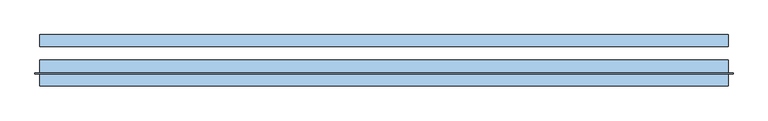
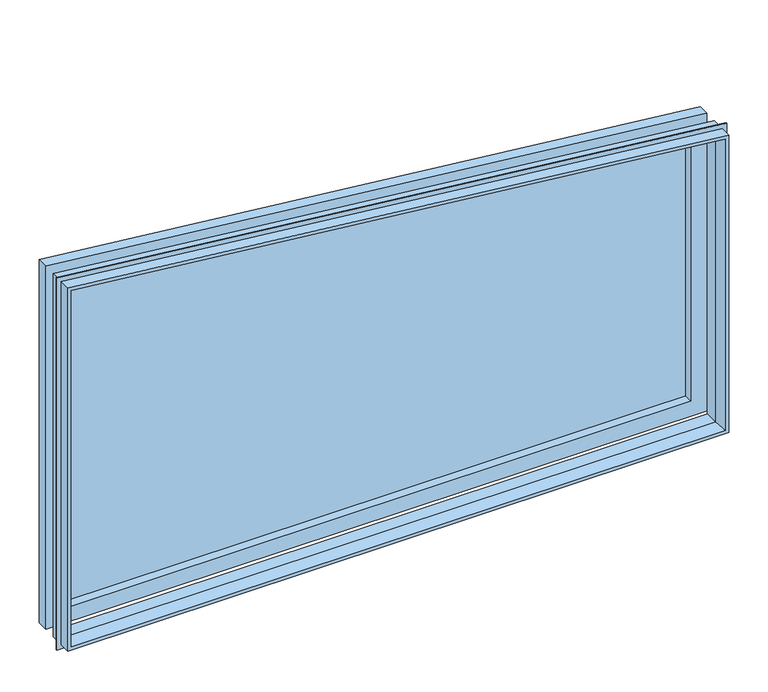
"""IFC4 building model written with IfcOpenShell, lengths in millimetres: window geometry, trapzoid_1824 : Menuiserie 1.2."""

import ifcopenshell
import ifcopenshell.guid

model = None  # the IFC model being written
_history = None  # IfcOwnerHistory: only IFC2X3 demands one
_inside = {}  # id of a spatial element -> (the spatial element, [elements in it])
_under = {}  # id of a project, library or spatial element -> (it, [spatial elements below it])
_declared = {}  # id of a project -> (the project, [libraries it declares])
_typed = {}  # id of a type object -> (the type object, [elements of that type])
_made_of = {}  # id of a material, layer set ... -> (it, [elements and type objects made of it])


def new_model(schema):
    """Start an empty IFC model of exactly this schema.

    Asked for "IFC4X3", IfcOpenShell would pick the latest addendum, in which some entities
    have other attributes; the version numbers below select the first issue.
    IFC2X3 requires an IfcOwnerHistory on every rooted entity: one is made here for all.
    """
    global model, _history
    if schema == "IFC4X3":
        model = ifcopenshell.file(schema_version=(4, 3, 0, 0))
    else:
        model = ifcopenshell.file(schema=schema)
    _inside.clear()
    _under.clear()
    _declared.clear()
    _typed.clear()
    _made_of.clear()
    _history = None
    if model.schema == "IFC2X3":
        org = make("IfcOrganization", Name="unknown")
        user = make(
            "IfcPersonAndOrganization",
            ThePerson=make("IfcPerson", FamilyName="unknown"),
            TheOrganization=org,
        )
        app = make(
            "IfcApplication",
            ApplicationDeveloper=org,
            Version="unknown",
            ApplicationFullName="unknown",
            ApplicationIdentifier="unknown",
        )
        _history = make(
            "IfcOwnerHistory",
            OwningUser=user,
            OwningApplication=app,
            ChangeAction="ADDED",
            CreationDate=0,
        )
    return model


def make(cls, **values):
    """One entity of the class cls with the attributes given. An attribute that is None is left unset."""
    return model.create_entity(
        cls, **{name: value for name, value in values.items() if value is not None}
    )


def rooted(cls, **values):
    """An entity with a GlobalId (a new one), such as an element, a storey or a relation."""
    return make(cls, GlobalId=ifcopenshell.guid.new(), OwnerHistory=_history, **values)


def si_unit(unit_type, name, prefix=None):
    """IfcSIUnit, for example si_unit("LENGTHUNIT", "METRE", prefix="MILLI")."""
    return make("IfcSIUnit", UnitType=unit_type, Prefix=prefix, Name=name)


def assignment(units):
    """IfcUnitAssignment: the units of a project."""
    return None if units is None else make("IfcUnitAssignment", Units=units)


def point(xyz):
    """IfcCartesianPoint."""
    return None if xyz is None else make("IfcCartesianPoint", Coordinates=xyz)


def direction(xyz):
    """IfcDirection."""
    return None if xyz is None else make("IfcDirection", DirectionRatios=xyz)


def frame(location, z_axis=None, x_axis=None):
    """IfcAxis2Placement3D, a coordinate frame: its origin and axes. An axis left out is left unset."""
    return make(
        "IfcAxis2Placement3D",
        Location=point(location),
        Axis=direction(z_axis),
        RefDirection=direction(x_axis),
    )


def origin():
    """The frame at (0, 0, 0) with its axes left unset."""
    return frame((0.0, 0.0, 0.0))


def place(relative_to, where):
    """IfcLocalPlacement: puts the frame where relative to a parent placement (None: the world)."""
    return make(
        "IfcLocalPlacement", PlacementRelTo=relative_to, RelativePlacement=where
    )


def context(
    kind, dimensions, precision=None, world=None, true_north=None, identifier=None
):
    """IfcGeometricRepresentationContext, for example the 3D "Model" context."""
    return make(
        "IfcGeometricRepresentationContext",
        ContextIdentifier=identifier,
        ContextType=kind,
        CoordinateSpaceDimension=dimensions,
        Precision=precision,
        WorldCoordinateSystem=world,
        TrueNorth=true_north,
    )


def project(units=None, contexts=None):
    """IfcProject with its units and contexts."""
    return rooted(
        "IfcProject",
        Name="project",
        RepresentationContexts=contexts,
        UnitsInContext=assignment(units),
    )


def spatial(cls, under=None, at=None, **own):
    """A site, building, storey or space (cls), placed at a placement, below another one or the project."""
    s = rooted(cls, ObjectPlacement=at, **own)
    if under is not None:
        _under.setdefault(under.id(), (under, []))[1].append(s)
    return s


def polyline(points):
    """IfcPolyline through the points."""
    return make("IfcPolyline", Points=[point(p) for p in points])


def outline(outer, holes=None, kind="AREA"):
    """IfcArbitraryClosedProfileDef: a profile drawn as a closed curve; with holes, ...WithVoids."""
    if holes is None:
        return make("IfcArbitraryClosedProfileDef", ProfileType=kind, OuterCurve=outer)
    return make(
        "IfcArbitraryProfileDefWithVoids",
        ProfileType=kind,
        OuterCurve=outer,
        InnerCurves=holes,
    )


def extrude(swept, where, along, depth):
    """IfcExtrudedAreaSolid: the profile swept, set in the frame where, extruded along a direction by depth."""
    return make(
        "IfcExtrudedAreaSolid",
        SweptArea=swept,
        Position=where,
        ExtrudedDirection=direction(along),
        Depth=depth,
    )


def faces_of(points, faces, orient=None, outer=None):
    """IfcFace entities. A face is a list of loops; a loop is a list of indices into points, from 0.

    orient and outer hold one flag for each loop. By default every Orientation is true, the
    first loop of a face is its IfcFaceOuterBound and the others are IfcFaceBound.
    """
    made = []
    for i, loops in enumerate(faces):
        bounds = []
        for j, loop in enumerate(loops):
            is_outer = j == 0 if outer is None else outer[i][j]
            bounds.append(
                make(
                    "IfcFaceOuterBound" if is_outer else "IfcFaceBound",
                    Bound=make("IfcPolyLoop", Polygon=[points[k] for k in loop]),
                    Orientation=True if orient is None else orient[i][j],
                )
            )
        made.append(make("IfcFace", Bounds=bounds))
    return made


def faceted_brep(points, faces, orient=None, outer=None, voids=None):
    """IfcFacetedBrep: a solid bounded by flat faces; with voids (closed shells), ...WithVoids."""
    shared = [point(p) for p in points]
    hull = make("IfcClosedShell", CfsFaces=faces_of(shared, faces, orient, outer))
    if voids is None:
        return make("IfcFacetedBrep", Outer=hull)
    return make(
        "IfcFacetedBrepWithVoids",
        Outer=hull,
        Voids=[
            make(cls, CfsFaces=faces_of(shared, fs, o, b)) for cls, fs, o, b in voids
        ],
    )


def shape(context_of_items, identifier, shape_type, items):
    """IfcShapeRepresentation: the items that make up one representation, for example the "Body"."""
    return make(
        "IfcShapeRepresentation",
        ContextOfItems=context_of_items,
        RepresentationIdentifier=identifier,
        RepresentationType=shape_type,
        Items=items,
    )


def source(mapping_origin, context_of_items, identifier, shape_type, items):
    """IfcRepresentationMap: a shape defined once, which mapped items show again and again."""
    return make(
        "IfcRepresentationMap",
        MappingOrigin=mapping_origin,
        MappedRepresentation=shape(context_of_items, identifier, shape_type, items),
    )


def transform(
    local_origin,
    x_axis=None,
    y_axis=None,
    z_axis=None,
    scale=None,
    scale2=None,
    scale3=None,
    uniform=True,
):
    """IfcCartesianTransformationOperator3D, or its non-uniform kind. x_axis, y_axis, z_axis: its Axis1, 2, 3."""
    if uniform:
        return make(
            "IfcCartesianTransformationOperator3D",
            Axis1=direction(x_axis),
            Axis2=direction(y_axis),
            LocalOrigin=point(local_origin),
            Scale=scale,
            Axis3=direction(z_axis),
        )
    return make(
        "IfcCartesianTransformationOperator3DnonUniform",
        Axis1=direction(x_axis),
        Axis2=direction(y_axis),
        LocalOrigin=point(local_origin),
        Scale=scale,
        Axis3=direction(z_axis),
        Scale2=scale2,
        Scale3=scale3,
    )


def mapped(mapping_source, mapping_target):
    """IfcMappedItem: shows the shape of a source again, moved by a transform."""
    return make(
        "IfcMappedItem", MappingSource=mapping_source, MappingTarget=mapping_target
    )


def made_of(thing, what):
    """Note that an element or type object is made of a material, layer set ...; save() writes the relation."""
    if what is not None:
        _made_of.setdefault(what.id(), (what, []))[1].append(thing)
    return thing


def element(
    cls,
    number,
    at=None,
    inside=None,
    cuts=None,
    type_object=None,
    material=None,
    context=None,
    identifier="Body",
    shape_type=None,
    held_by="IfcProductDefinitionShape",
    body=None,
    shapes=None,
    **own,
):
    """One element of the class cls, such as IfcWall. Its Tag is "e" and its number.

    at: its placement. inside: the storey or other place that contains it. cuts: it is an
    opening in that element (IfcRelVoidsElement). A single representation is given by context,
    identifier, shape_type and body (its items); several are given by shapes. held_by: the class
    of the entity that holds the representations. save() writes the other relations.
    """
    e = rooted(cls, Tag="e%d" % number, ObjectPlacement=at, **own)
    if body is not None:
        shapes = [shape(context, identifier, shape_type, body)]
    if shapes is not None:
        e.Representation = make(held_by, Representations=shapes)
    if inside is not None:
        _inside.setdefault(inside.id(), (inside, []))[1].append(e)
    if cuts is not None:
        rooted(
            "IfcRelVoidsElement", RelatingBuildingElement=cuts, RelatedOpeningElement=e
        )
    if type_object is not None:
        _typed.setdefault(type_object.id(), (type_object, []))[1].append(e)
    return made_of(e, material)


def aggregate(whole, parts):
    """IfcRelAggregates: a whole, such as a stair, and the parts it consists of."""
    return rooted("IfcRelAggregates", RelatingObject=whole, RelatedObjects=parts)


def save(model, path):
    """Write the relations noted so far, then the file.

    IfcRelAggregates (storeys below a building ...), IfcRelContainedInSpatialStructure (elements
    in a storey), IfcRelDefinesByType, IfcRelAssociatesMaterial and IfcRelDeclares: one each for
    every whole, place, type object, material and project.
    """
    for whole, parts in _under.values():
        aggregate(whole, parts)
    for where, things in _inside.values():
        rooted(
            "IfcRelContainedInSpatialStructure",
            RelatedElements=things,
            RelatingStructure=where,
        )
    for kind, things in _typed.values():
        rooted("IfcRelDefinesByType", RelatedObjects=things, RelatingType=kind)
    for what, things in _made_of.values():
        rooted("IfcRelAssociatesMaterial", RelatedObjects=things, RelatingMaterial=what)
    for by, libraries in _declared.values():
        rooted("IfcRelDeclares", RelatingContext=by, RelatedDefinitions=libraries)
    model.write(path)


def window_ba02bbd5(model_context):
    return source(origin(), model_context, "Body", "SolidModel", [
        extrude(outline(polyline([(1940.676109, -1032.95), (958.85, -1032.95), (958.85, 728.15), (1755.5770402, 728.15), (1940.676109, -1032.95)])), frame((0.0, -59.53125, 0.0), z_axis=(0.0, 1.0, 0.0), x_axis=(0.0, 0.0, 1.0)), (0.0, 0.0, 1.0), 3.175),
        faceted_brep([(772.6, -84.93125, 1795.6), (-1077.4, -84.93125, 1990.0428352), (-1077.4, -84.93125, 914.4), (772.6, -84.93125, 914.4), (728.15, -84.93125, 958.85), (-1032.95, -84.93125, 958.85), (-1032.95, -84.93125, 1940.676109), (728.15, -84.93125, 1755.5770402), (772.6, -53.18125, 914.4), (772.6, -53.18125, 1795.6), (-1077.4, -53.18125, 914.4), (-1077.4, -53.18125, 1990.0428352), (728.15, -53.18125, 1755.5770402), (728.15, -53.18125, 958.85), (-1032.95, -53.18125, 1940.676109), (-1032.95, -53.18125, 958.85)], [[[0, 1, 2, 3], [4, 5, 6, 7]], [[3, 8, 9, 0]], [[2, 10, 8, 3]], [[1, 11, 10, 2]], [[7, 12, 13, 4]], [[6, 14, 12, 7]], [[5, 15, 14, 6]], [[4, 13, 15, 5]], [[9, 8, 10, 11], [13, 12, 14, 15]], [[0, 9, 11, 1]]]),
        faceted_brep([(753.55, -121.075, 1778.447303), (753.55, -159.175, 1778.447303), (-1058.35, -159.175, 1968.8856668), (-1058.35, -121.075, 1968.8856668), (-1058.35, -159.175, 933.45), (-1058.35, -121.075, 933.45), (753.55, -159.175, 933.45), (753.55, -121.075, 933.45), (-1090.1, -159.175, 2004.1476142), (-1090.1, -159.175, 901.7), (785.3, -159.175, 901.7), (785.3, -159.175, 1807.0351314), (772.6, -159.175, 1795.6), (772.6, -159.175, 914.4), (-1077.4, -159.175, 914.4), (-1077.4, -159.175, 1990.0428352), (772.6, -121.075, 1795.6), (772.6, -121.075, 914.4), (-1077.4, -121.075, 914.4), (-1077.4, -121.075, 1990.0428352), (-1077.4, -156.0, 914.4), (-1077.4, -156.0, 1990.0428352), (772.6, -156.0, 914.4), (772.6, -156.0, 1795.6), (785.3, -156.0, 901.7), (785.3, -156.0, 1807.0351314), (-1090.1, -156.0, 901.7), (-1090.1, -156.0, 2004.1476142), (-1077.4, -190.925, 1990.0428352), (-1077.4, -190.925, 914.4), (772.6, -190.925, 914.4), (772.6, -190.925, 1795.6), (762.8109278, -190.925, 1786.7858798), (762.8109278, -190.925, 924.1890722), (-1067.6109278, -190.925, 924.1890722), (-1067.6109278, -190.925, 1979.1709691)], [[[0, 1, 2, 3]], [[3, 2, 4, 5]], [[5, 4, 6, 7]], [[7, 6, 1, 0]], [[8, 9, 10, 11], [12, 13, 14, 15]], [[16, 17, 18, 19], [3, 5, 7, 0]], [[19, 18, 20, 21]], [[17, 22, 20, 18]], [[23, 22, 17, 16]], [[10, 24, 25, 11]], [[9, 26, 24, 10]], [[8, 27, 26, 9]], [[25, 24, 26, 27], [21, 20, 22, 23]], [[16, 19, 21, 23]], [[11, 25, 27, 8]], [[28, 29, 30, 31], [32, 33, 34, 35]], [[35, 34, 4, 2]], [[33, 6, 4, 34]], [[1, 6, 33, 32]], [[30, 13, 12, 31]], [[29, 14, 13, 30]], [[28, 15, 14, 29]], [[1, 32, 35, 2]], [[31, 12, 15, 28]]]),
    ])


if __name__ == "__main__":
    model = new_model("IFC4")
    model_context = context("Model", 3, world=origin())
    ifc_project = project(units=[si_unit("LENGTHUNIT", "METRE", prefix="MILLI")], contexts=[model_context])
    site = spatial("IfcSite", under=ifc_project)
    building = spatial("IfcBuilding", under=site)
    placement = place(None, origin())
    window_shape = window_ba02bbd5(model_context)
    element("IfcWindow", 1, ObjectType="trapzoid_1824 : Menuiserie 1.2", at=placement, inside=building, context=model_context, shape_type="MappedRepresentation", body=[
        mapped(window_shape, transform((0.0, 0.0, 0.0), x_axis=(1.0, 0.0, 0.0), y_axis=(0.0, 1.0, 0.0), z_axis=(0.0, 0.0, 1.0))),
    ])
    save(model, "model.ifc")
